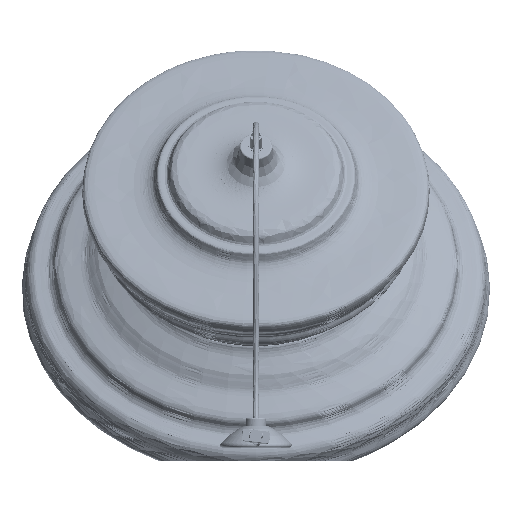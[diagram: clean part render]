
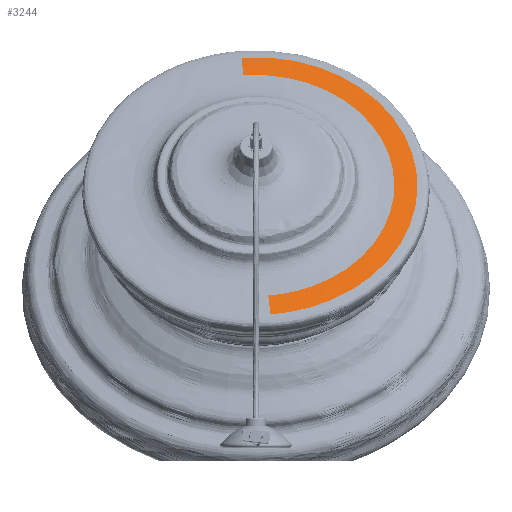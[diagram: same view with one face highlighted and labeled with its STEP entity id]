
A CAD part, left-side view. The second image highlights one B-rep face of the part: STEP entity #3244.
In plain terms, the highlighted free-form (B-spline) face has degree [2, 2] with [3, 5] control points.
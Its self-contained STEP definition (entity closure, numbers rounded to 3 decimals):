
#551=(
BOUNDED_SURFACE()
B_SPLINE_SURFACE(2,2,((#44996,#44997,#44998,#44999,#45000),(#45001,#45002,
#45003,#45004,#45005),(#45006,#45007,#45008,#45009,#45010)),
 .UNSPECIFIED.,.F.,.F.,.F.)
B_SPLINE_SURFACE_WITH_KNOTS((3,3),(3,2,3),(0.,31.536),(621.394,
932.091,1242.788),.UNSPECIFIED.)
GEOMETRIC_REPRESENTATION_ITEM()
RATIONAL_B_SPLINE_SURFACE(((1.,0.707,1.,0.707,1.),
(0.998,0.706,0.998,0.706,
0.998),(1.,0.707,1.,0.707,1.)))
REPRESENTATION_ITEM('')
SURFACE()
);
#3244=ADVANCED_FACE('',(#5933),#551,.T.);
#5933=FACE_OUTER_BOUND('',#8635,.T.);
#8635=EDGE_LOOP('',(#13141,#13142,#13143,#13144));
#13141=ORIENTED_EDGE('',*,*,#24123,.T.);
#13142=ORIENTED_EDGE('',*,*,#24122,.T.);
#13143=ORIENTED_EDGE('',*,*,#23080,.F.);
#13144=ORIENTED_EDGE('',*,*,#24124,.F.);
#23080=EDGE_CURVE('',#33655,#33654,#28514,.T.);
#24122=EDGE_CURVE('',#34177,#33654,#29556,.T.);
#24123=EDGE_CURVE('',#34178,#34177,#29557,.T.);
#24124=EDGE_CURVE('',#34178,#33655,#29558,.T.);
#28514=(
BOUNDED_CURVE()
B_SPLINE_CURVE(2,(#56712,#56713,#56714),.UNSPECIFIED.,.F.,.F.)
B_SPLINE_CURVE_WITH_KNOTS((3,3),(0.,31.536),
 .UNSPECIFIED.)
CURVE()
GEOMETRIC_REPRESENTATION_ITEM()
RATIONAL_B_SPLINE_CURVE((1.,0.998,1.))
REPRESENTATION_ITEM('')
);
#29556=(
BOUNDED_CURVE()
B_SPLINE_CURVE(2,(#60577,#60578,#60579,#60580,#60581),.UNSPECIFIED.,.F.,
 .F.)
B_SPLINE_CURVE_WITH_KNOTS((3,2,3),(6.283,7.854,9.425),
 .UNSPECIFIED.)
CURVE()
GEOMETRIC_REPRESENTATION_ITEM()
RATIONAL_B_SPLINE_CURVE((1.,0.707,1.,0.707,1.))
REPRESENTATION_ITEM('')
);
#29557=(
BOUNDED_CURVE()
B_SPLINE_CURVE(2,(#60582,#60583,#60584),.UNSPECIFIED.,.F.,.F.)
B_SPLINE_CURVE_WITH_KNOTS((3,3),(0.,31.536),
 .UNSPECIFIED.)
CURVE()
GEOMETRIC_REPRESENTATION_ITEM()
RATIONAL_B_SPLINE_CURVE((1.,0.998,1.))
REPRESENTATION_ITEM('')
);
#29558=(
BOUNDED_CURVE()
B_SPLINE_CURVE(2,(#60585,#60586,#60587,#60588,#60589),.UNSPECIFIED.,.F.,
 .F.)
B_SPLINE_CURVE_WITH_KNOTS((3,2,3),(6.283,7.854,9.425),
 .UNSPECIFIED.)
CURVE()
GEOMETRIC_REPRESENTATION_ITEM()
RATIONAL_B_SPLINE_CURVE((1.,0.707,1.,0.707,1.))
REPRESENTATION_ITEM('')
);
#33654=VERTEX_POINT('',#52662);
#33655=VERTEX_POINT('',#52663);
#34177=VERTEX_POINT('',#53185);
#34178=VERTEX_POINT('',#53186);
#44996=CARTESIAN_POINT('',(-232.411,13.926,388.073));
#44997=CARTESIAN_POINT('',(-224.016,-140.797,399.184));
#44998=CARTESIAN_POINT('',(-317.28,-154.723,275.729));
#44999=CARTESIAN_POINT('',(-410.544,-168.649,152.274));
#45000=CARTESIAN_POINT('',(-418.938,-13.926,141.163));
#45001=CARTESIAN_POINT('',(-240.021,12.931,379.963));
#45002=CARTESIAN_POINT('',(-232.227,-130.734,390.281));
#45003=CARTESIAN_POINT('',(-318.825,-143.665,275.649));
#45004=CARTESIAN_POINT('',(-405.423,-156.596,161.017));
#45005=CARTESIAN_POINT('',(-413.217,-12.931,150.7));
#45006=CARTESIAN_POINT('',(-246.57,11.93,370.975));
#45007=CARTESIAN_POINT('',(-239.379,-120.616,380.495));
#45008=CARTESIAN_POINT('',(-319.275,-132.546,274.735));
#45009=CARTESIAN_POINT('',(-399.171,-144.476,168.975));
#45010=CARTESIAN_POINT('',(-406.362,-11.93,159.456));
#52662=CARTESIAN_POINT('',(-406.362,-11.93,159.456));
#52663=CARTESIAN_POINT('',(-418.938,-13.926,141.163));
#53185=CARTESIAN_POINT('',(-246.57,11.93,370.975));
#53186=CARTESIAN_POINT('',(-232.411,13.926,388.073));
#56712=CARTESIAN_POINT('',(-418.938,-13.926,141.163));
#56713=CARTESIAN_POINT('',(-413.217,-12.931,150.7));
#56714=CARTESIAN_POINT('',(-406.362,-11.93,159.456));
#60577=CARTESIAN_POINT('',(-246.57,11.93,370.975));
#60578=CARTESIAN_POINT('',(-239.379,-120.616,380.495));
#60579=CARTESIAN_POINT('',(-319.275,-132.546,274.735));
#60580=CARTESIAN_POINT('',(-399.171,-144.476,168.975));
#60581=CARTESIAN_POINT('',(-406.362,-11.93,159.456));
#60582=CARTESIAN_POINT('',(-232.411,13.926,388.073));
#60583=CARTESIAN_POINT('',(-240.021,12.931,379.963));
#60584=CARTESIAN_POINT('',(-246.57,11.93,370.975));
#60585=CARTESIAN_POINT('',(-232.411,13.926,388.073));
#60586=CARTESIAN_POINT('',(-224.016,-140.797,399.184));
#60587=CARTESIAN_POINT('',(-317.28,-154.723,275.729));
#60588=CARTESIAN_POINT('',(-410.544,-168.649,152.274));
#60589=CARTESIAN_POINT('',(-418.938,-13.926,141.163));
